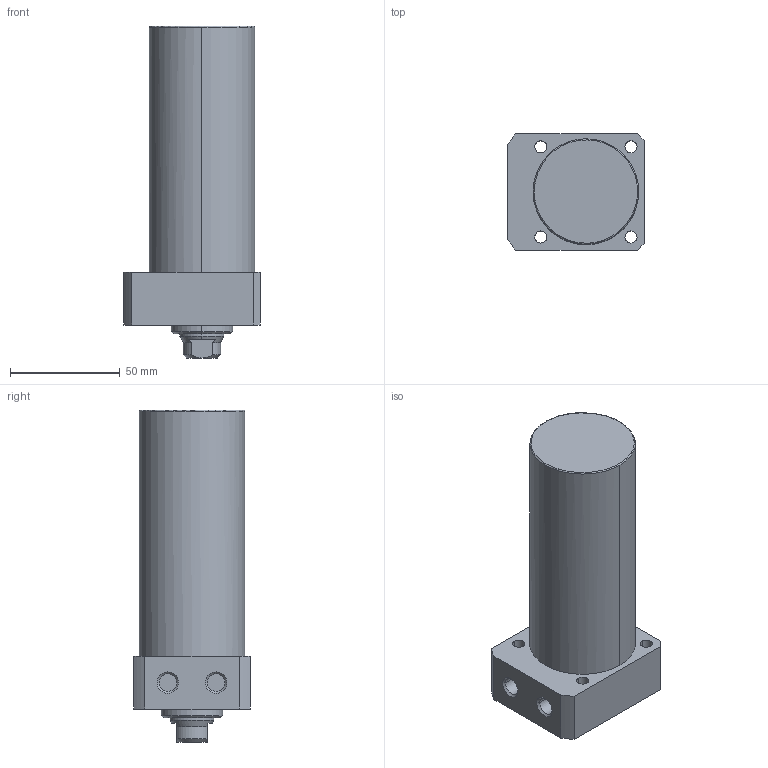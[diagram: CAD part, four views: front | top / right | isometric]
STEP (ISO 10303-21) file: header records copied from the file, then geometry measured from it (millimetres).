
FILE_DESCRIPTION((' '),'2;1');
FILE_NAME( 'TLLR-048CA-085.STEP.stp', '2025-10-24T16:34:30', (' '), ('--- Datakit www.datakit.com---'), ' Datakit CrossCadWare V2024.1 Dec 21 2023', 'Mastercam 2025', ' ');
FILE_SCHEMA(('AUTOMOTIVE_DESIGN { 1 0 10303 214 1 1 1 1 }'));
Length unit declared in the file: millimetre
Products named in the file (1): TLLR-048CA-085
Bounding box: 62 x 53 x 151 mm (x, y, z)
Volume: 281020.5 mm3; surface area: 32252.7 mm2
Topology: 1 solids, 1 shells, 63 faces, 177 edges, 122 vertices
Faces by surface type: cylinder 28, plane 19, cone 14, torus 2
Entity records: 2172 total; most frequent: CARTESIAN_POINT 409, DIRECTION 400, ORIENTED_EDGE 350, EDGE_CURVE 175, AXIS2_PLACEMENT_3D 169, VERTEX_POINT 122, CIRCLE 105, EDGE_LOOP 79
